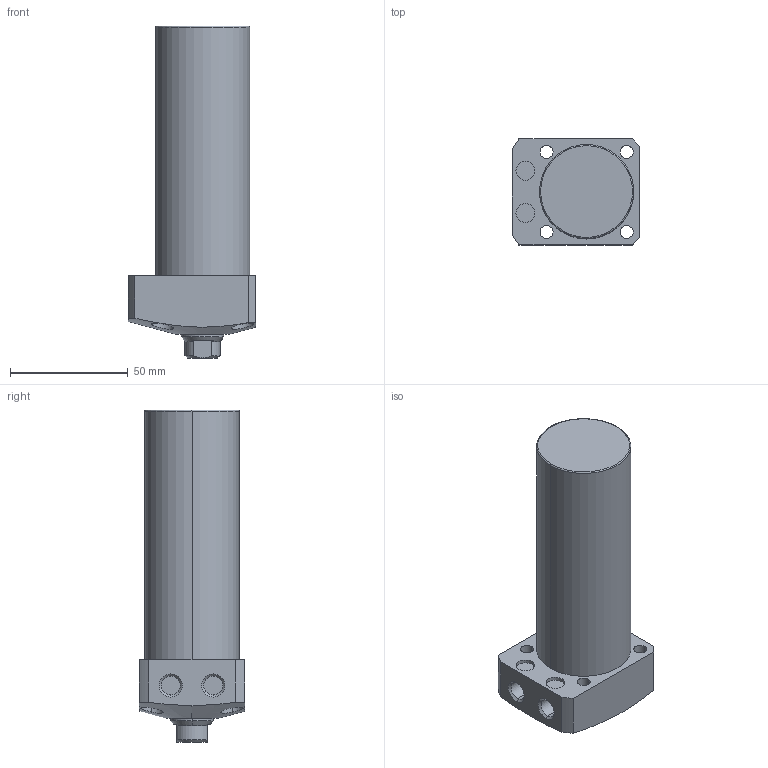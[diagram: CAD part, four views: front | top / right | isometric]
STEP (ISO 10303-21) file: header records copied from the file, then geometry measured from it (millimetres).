
FILE_DESCRIPTION (( 'STEP AP203' ), '1' );
FILE_NAME ('CLL-040CA-080.STEP', '2019-12-21T03:39:25', ( '' ), ( '' ), 'SwSTEP 2.0', 'SolidWorks 2015', '' );
FILE_SCHEMA (( 'CONFIG_CONTROL_DESIGN' ));
Length unit declared in the file: millimetre
Products named in the file (1): CLL-040CA-080
Bounding box: 54 x 45 x 141 mm (x, y, z)
Volume: 183641.8 mm3; surface area: 25422.6 mm2
Topology: 1 solids, 1 shells, 74 faces, 170 edges, 107 vertices
Faces by surface type: cylinder 35, plane 22, cone 15, torus 2
Entity records: 2505 total; most frequent: CARTESIAN_POINT 718, DIRECTION 374, ORIENTED_EDGE 336, EDGE_CURVE 168, AXIS2_PLACEMENT_3D 155, VERTEX_POINT 107, EDGE_LOOP 93, CIRCLE 80
